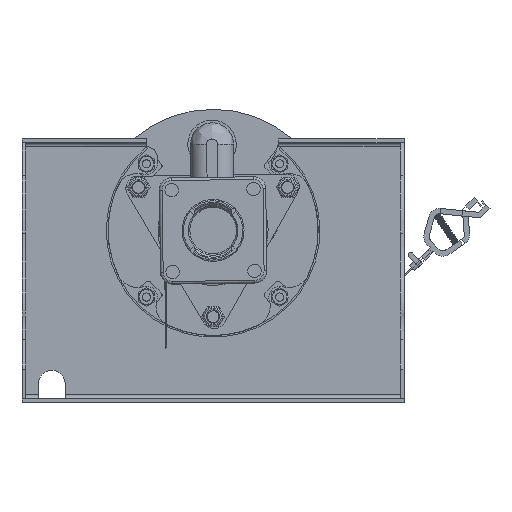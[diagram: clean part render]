
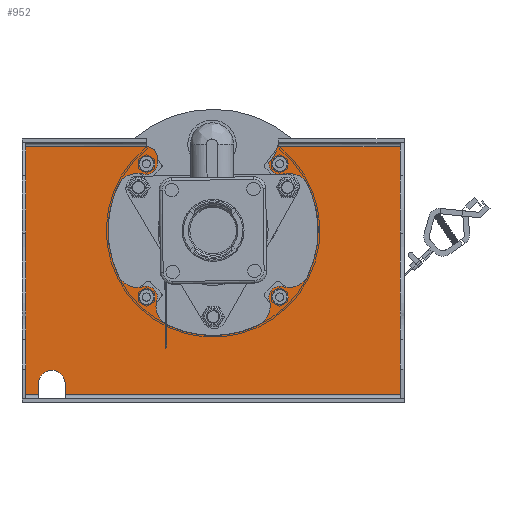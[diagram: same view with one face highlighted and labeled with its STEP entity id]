
A CAD part, front view. The second image highlights one B-rep face of the part: STEP entity #952.
In plain terms, the highlighted planar face has unit normal (0, -1, 0).
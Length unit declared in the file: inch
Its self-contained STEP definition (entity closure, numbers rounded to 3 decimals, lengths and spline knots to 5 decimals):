
#43=CARTESIAN_POINT('',(-3.09394,-0.18,11.71));
#45=DIRECTION('',(1.,0.,0.));
#46=VECTOR('',#45,5.78106);
#47=CARTESIAN_POINT('',(-8.875,-0.18,11.71));
#48=LINE('',#47,#46);
#54=CARTESIAN_POINT('',(1.531,-0.18,12.031));
#55=DIRECTION('',(0.,1.,0.));
#56=DIRECTION('',(0.977,0.,-0.214));
#57=AXIS2_PLACEMENT_3D('',#54,#55,#56);
#59=DIRECTION('',(1.,0.,0.));
#60=VECTOR('',#59,15.745);
#61=CARTESIAN_POINT('',(-6.87,-0.18,0.18));
#62=LINE('',#61,#60);
#63=DIRECTION('',(0.,0.,1.));
#64=VECTOR('',#63,0.52);
#65=CARTESIAN_POINT('',(-6.87,-0.18,0.18));
#66=LINE('',#65,#64);
#67=CARTESIAN_POINT('',(-7.495,-0.18,0.7));
#68=DIRECTION('',(0.,1.,0.));
#69=DIRECTION('',(-1.,0.,0.));
#70=AXIS2_PLACEMENT_3D('',#67,#68,#69);
#72=DIRECTION('',(0.,0.,1.));
#73=VECTOR('',#72,0.52);
#74=CARTESIAN_POINT('',(-8.12,-0.18,0.18));
#75=LINE('',#74,#73);
#76=DIRECTION('',(1.,0.,0.));
#77=VECTOR('',#76,0.755);
#78=CARTESIAN_POINT('',(-8.875,-0.18,0.18));
#79=LINE('',#78,#77);
#80=CARTESIAN_POINT('',(-3.09394,-0.18,11.71));
#81=CARTESIAN_POINT('',(-3.05031,-0.18,11.70999));
#82=CARTESIAN_POINT('',(-2.96313,-0.18,11.6985));
#83=CARTESIAN_POINT('',(-2.84113,-0.18,11.64797));
#84=CARTESIAN_POINT('',(-2.7364,-0.18,11.56759));
#85=CARTESIAN_POINT('',(-2.65602,-0.18,11.46285));
#86=CARTESIAN_POINT('',(-2.6055,-0.18,11.34089));
#87=CARTESIAN_POINT('',(-2.594,-0.18,11.25363));
#88=CARTESIAN_POINT('',(-2.594,-0.18,11.21));
#90=DIRECTION('',(0.,0.,-1.));
#91=VECTOR('',#90,0.297);
#92=CARTESIAN_POINT('',(-2.594,-0.18,11.21));
#93=LINE('',#92,#91);
#94=CARTESIAN_POINT('',(-3.094,-0.18,10.913));
#95=DIRECTION('',(0.,1.,0.));
#96=DIRECTION('',(1.,0.,0.));
#97=AXIS2_PLACEMENT_3D('',#94,#95,#96);
#99=CARTESIAN_POINT('',(-3.51072,-0.18,9.47205));
#100=DIRECTION('',(0.,1.,0.));
#101=DIRECTION('',(-0.905,0.,0.426));
#102=AXIS2_PLACEMENT_3D('',#99,#100,#101);
#104=CARTESIAN_POINT('',(0.,-0.18,7.82));
#105=DIRECTION('',(0.,1.,0.));
#106=DIRECTION('',(-0.905,0.,-0.426));
#107=AXIS2_PLACEMENT_3D('',#104,#105,#106);
#109=CARTESIAN_POINT('',(-3.5106,-0.18,6.1677));
#110=DIRECTION('',(0.,1.,0.));
#111=DIRECTION('',(0.278,0.,-0.96));
#112=AXIS2_PLACEMENT_3D('',#109,#110,#111);
#114=CARTESIAN_POINT('',(-3.093,-0.18,4.727));
#115=DIRECTION('',(0.,1.,0.));
#116=DIRECTION('',(-0.278,0.,0.96));
#117=AXIS2_PLACEMENT_3D('',#114,#115,#116);
#119=CARTESIAN_POINT('',(-1.6523,-0.18,4.3094));
#120=DIRECTION('',(0.,1.,0.));
#121=DIRECTION('',(-0.426,0.,-0.905));
#122=AXIS2_PLACEMENT_3D('',#119,#120,#121);
#124=CARTESIAN_POINT('',(0.,-0.18,7.82));
#125=DIRECTION('',(0.,1.,0.));
#126=DIRECTION('',(0.426,0.,-0.905));
#127=AXIS2_PLACEMENT_3D('',#124,#125,#126);
#129=CARTESIAN_POINT('',(1.6523,-0.18,4.3094));
#130=DIRECTION('',(0.,1.,0.));
#131=DIRECTION('',(0.96,0.,0.278));
#132=AXIS2_PLACEMENT_3D('',#129,#130,#131);
#134=CARTESIAN_POINT('',(3.093,-0.18,4.727));
#135=DIRECTION('',(0.,1.,0.));
#136=DIRECTION('',(-0.96,0.,-0.278));
#137=AXIS2_PLACEMENT_3D('',#134,#135,#136);
#139=CARTESIAN_POINT('',(3.5106,-0.18,6.1677));
#140=DIRECTION('',(0.,1.,0.));
#141=DIRECTION('',(0.905,0.,-0.426));
#142=AXIS2_PLACEMENT_3D('',#139,#140,#141);
#144=CARTESIAN_POINT('',(0.,-0.18,7.82));
#145=DIRECTION('',(0.,1.,0.));
#146=DIRECTION('',(0.905,0.,0.426));
#147=AXIS2_PLACEMENT_3D('',#144,#145,#146);
#149=CARTESIAN_POINT('',(3.51072,-0.18,9.47205));
#150=DIRECTION('',(0.,1.,0.));
#151=DIRECTION('',(-0.278,0.,0.961));
#152=AXIS2_PLACEMENT_3D('',#149,#150,#151);
#154=CARTESIAN_POINT('',(3.094,-0.18,10.913));
#155=DIRECTION('',(0.,1.,0.));
#156=DIRECTION('',(0.278,0.,-0.961));
#157=AXIS2_PLACEMENT_3D('',#154,#155,#156);
#159=DIRECTION('',(0.,0.,1.));
#160=VECTOR('',#159,0.05968);
#161=CARTESIAN_POINT('',(2.594,-0.18,10.913));
#162=LINE('',#161,#160);
#347=DIRECTION('',(0.,0.,1.));
#348=VECTOR('',#347,11.53);
#349=CARTESIAN_POINT('',(-8.875,-0.18,0.18));
#350=LINE('',#349,#348);
#517=DIRECTION('',(0.,0.,1.));
#518=VECTOR('',#517,11.53);
#519=CARTESIAN_POINT('',(8.875,-0.18,0.18));
#520=LINE('',#519,#518);
#610=DIRECTION('',(1.,0.,0.));
#611=VECTOR('',#610,5.87875);
#612=CARTESIAN_POINT('',(2.99625,-0.18,11.71));
#613=LINE('',#612,#611);
#705=CARTESIAN_POINT('',(-8.875,-0.18,11.71));
#707=VERTEX_POINT('',#705);
#719=CARTESIAN_POINT('',(-8.875,-0.18,0.18));
#720=VERTEX_POINT('',#719);
#721=CARTESIAN_POINT('',(8.875,-0.18,0.18));
#722=VERTEX_POINT('',#721);
#723=CARTESIAN_POINT('',(8.875,-0.18,11.71));
#724=VERTEX_POINT('',#723);
#725=CARTESIAN_POINT('',(3.23291,-0.18,10.43268));
#726=CARTESIAN_POINT('',(2.594,-0.18,10.913));
#727=VERTEX_POINT('',#725);
#728=VERTEX_POINT('',#726);
#729=CARTESIAN_POINT('',(4.41554,-0.18,9.89783));
#730=VERTEX_POINT('',#729);
#731=CARTESIAN_POINT('',(4.41539,-0.18,5.74185));
#732=VERTEX_POINT('',#731);
#733=CARTESIAN_POINT('',(3.2322,-0.18,5.20723));
#734=VERTEX_POINT('',#733);
#735=CARTESIAN_POINT('',(2.61277,-0.18,4.5878));
#736=VERTEX_POINT('',#735);
#737=CARTESIAN_POINT('',(2.07815,-0.18,3.40461));
#738=VERTEX_POINT('',#737);
#739=CARTESIAN_POINT('',(-2.07815,-0.18,3.40461));
#740=VERTEX_POINT('',#739);
#741=CARTESIAN_POINT('',(-2.61277,-0.18,4.5878));
#742=VERTEX_POINT('',#741);
#743=CARTESIAN_POINT('',(-3.2322,-0.18,5.20723));
#744=VERTEX_POINT('',#743);
#745=CARTESIAN_POINT('',(-4.41539,-0.18,5.74185));
#746=VERTEX_POINT('',#745);
#747=CARTESIAN_POINT('',(-4.41554,-0.18,9.89783));
#748=VERTEX_POINT('',#747);
#749=CARTESIAN_POINT('',(-3.23291,-0.18,10.43268));
#750=VERTEX_POINT('',#749);
#751=CARTESIAN_POINT('',(-2.594,-0.18,10.913));
#752=VERTEX_POINT('',#751);
#770=CARTESIAN_POINT('',(-8.12,-0.18,0.18));
#772=VERTEX_POINT('',#770);
#774=CARTESIAN_POINT('',(-6.87,-0.18,0.18));
#776=VERTEX_POINT('',#774);
#777=CARTESIAN_POINT('',(-8.12,-0.18,0.7));
#778=VERTEX_POINT('',#777);
#779=CARTESIAN_POINT('',(-6.87,-0.18,0.7));
#780=VERTEX_POINT('',#779);
#797=CARTESIAN_POINT('',(2.99625,-0.18,11.71));
#798=CARTESIAN_POINT('',(2.594,-0.18,10.97268));
#799=VERTEX_POINT('',#797);
#800=VERTEX_POINT('',#798);
#813=VERTEX_POINT('',#43);
#817=VERTEX_POINT('',#88);
#894=CARTESIAN_POINT('',(-8.875,-0.18,0.18));
#895=DIRECTION('',(0.,1.,0.));
#896=DIRECTION('',(0.,0.,1.));
#897=AXIS2_PLACEMENT_3D('',#894,#895,#896);
#898=PLANE('',#897);
#900=ORIENTED_EDGE('',*,*,#899,.F.);
#902=ORIENTED_EDGE('',*,*,#901,.T.);
#904=ORIENTED_EDGE('',*,*,#903,.F.);
#906=ORIENTED_EDGE('',*,*,#905,.F.);
#908=ORIENTED_EDGE('',*,*,#907,.T.);
#910=ORIENTED_EDGE('',*,*,#909,.F.);
#912=ORIENTED_EDGE('',*,*,#911,.F.);
#914=ORIENTED_EDGE('',*,*,#913,.F.);
#916=ORIENTED_EDGE('',*,*,#915,.T.);
#917=ORIENTED_EDGE('',*,*,#886,.T.);
#919=ORIENTED_EDGE('',*,*,#918,.T.);
#921=ORIENTED_EDGE('',*,*,#920,.T.);
#923=ORIENTED_EDGE('',*,*,#922,.T.);
#925=ORIENTED_EDGE('',*,*,#924,.F.);
#927=ORIENTED_EDGE('',*,*,#926,.F.);
#929=ORIENTED_EDGE('',*,*,#928,.F.);
#931=ORIENTED_EDGE('',*,*,#930,.T.);
#933=ORIENTED_EDGE('',*,*,#932,.F.);
#935=ORIENTED_EDGE('',*,*,#934,.F.);
#937=ORIENTED_EDGE('',*,*,#936,.F.);
#939=ORIENTED_EDGE('',*,*,#938,.T.);
#941=ORIENTED_EDGE('',*,*,#940,.F.);
#943=ORIENTED_EDGE('',*,*,#942,.F.);
#945=ORIENTED_EDGE('',*,*,#944,.F.);
#947=ORIENTED_EDGE('',*,*,#946,.T.);
#949=ORIENTED_EDGE('',*,*,#948,.T.);
#950=EDGE_LOOP('',(#900,#902,#904,#906,#908,#910,#912,#914,#916,#917,#919,#921,
#923,#925,#927,#929,#931,#933,#935,#937,#939,#941,#943,#945,#947,#949));
#951=FACE_OUTER_BOUND('',#950,.F.);
#952=ADVANCED_FACE('',(#951),#898,.F.);
#58=CIRCLE('',#57,1.5);
#71=CIRCLE('',#70,0.625);
#89=B_SPLINE_CURVE_WITH_KNOTS('',3,(#80,#81,#82,#83,#84,#85,#86,#87,#88),
.UNSPECIFIED.,.F.,.F.,(4,1,1,1,1,1,4),(0.,0.16667,0.33333,
0.5,0.66667,0.83333,1.),.UNSPECIFIED.);
#98=CIRCLE('',#97,0.5);
#103=CIRCLE('',#102,1.);
#108=CIRCLE('',#107,4.88);
#113=CIRCLE('',#112,1.);
#118=CIRCLE('',#117,0.5);
#123=CIRCLE('',#122,1.);
#128=CIRCLE('',#127,4.88);
#133=CIRCLE('',#132,1.);
#138=CIRCLE('',#137,0.5);
#143=CIRCLE('',#142,1.);
#148=CIRCLE('',#147,4.88);
#153=CIRCLE('',#152,1.);
#158=CIRCLE('',#157,0.5);
#886=EDGE_CURVE('',#707,#813,#48,.T.);
#899=EDGE_CURVE('',#799,#800,#58,.T.);
#901=EDGE_CURVE('',#799,#724,#613,.T.);
#903=EDGE_CURVE('',#722,#724,#520,.T.);
#905=EDGE_CURVE('',#776,#722,#62,.T.);
#907=EDGE_CURVE('',#776,#780,#66,.T.);
#909=EDGE_CURVE('',#778,#780,#71,.T.);
#911=EDGE_CURVE('',#772,#778,#75,.T.);
#913=EDGE_CURVE('',#720,#772,#79,.T.);
#915=EDGE_CURVE('',#720,#707,#350,.T.);
#918=EDGE_CURVE('',#813,#817,#89,.T.);
#920=EDGE_CURVE('',#817,#752,#93,.T.);
#922=EDGE_CURVE('',#752,#750,#98,.T.);
#924=EDGE_CURVE('',#748,#750,#103,.T.);
#926=EDGE_CURVE('',#746,#748,#108,.T.);
#928=EDGE_CURVE('',#744,#746,#113,.T.);
#930=EDGE_CURVE('',#744,#742,#118,.T.);
#932=EDGE_CURVE('',#740,#742,#123,.T.);
#934=EDGE_CURVE('',#738,#740,#128,.T.);
#936=EDGE_CURVE('',#736,#738,#133,.T.);
#938=EDGE_CURVE('',#736,#734,#138,.T.);
#940=EDGE_CURVE('',#732,#734,#143,.T.);
#942=EDGE_CURVE('',#730,#732,#148,.T.);
#944=EDGE_CURVE('',#727,#730,#153,.T.);
#946=EDGE_CURVE('',#727,#728,#158,.T.);
#948=EDGE_CURVE('',#728,#800,#162,.T.);
